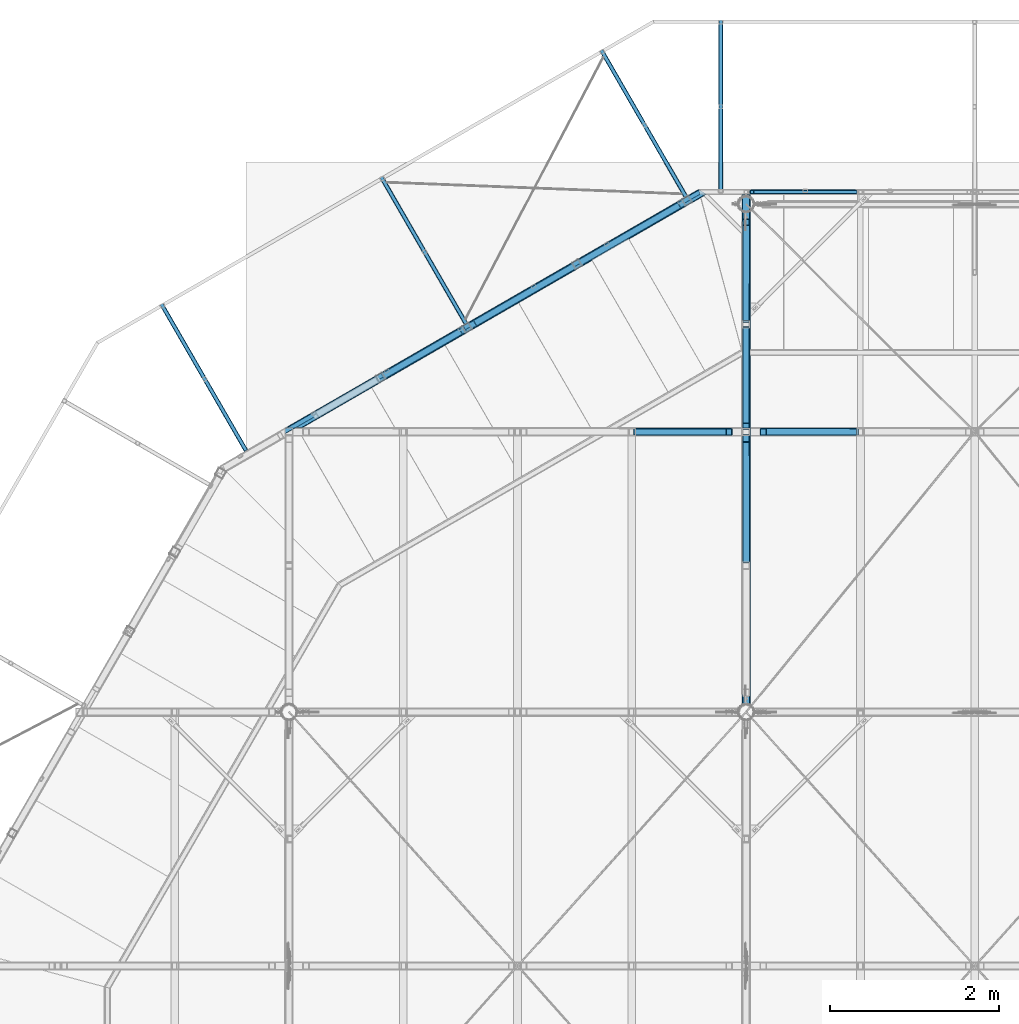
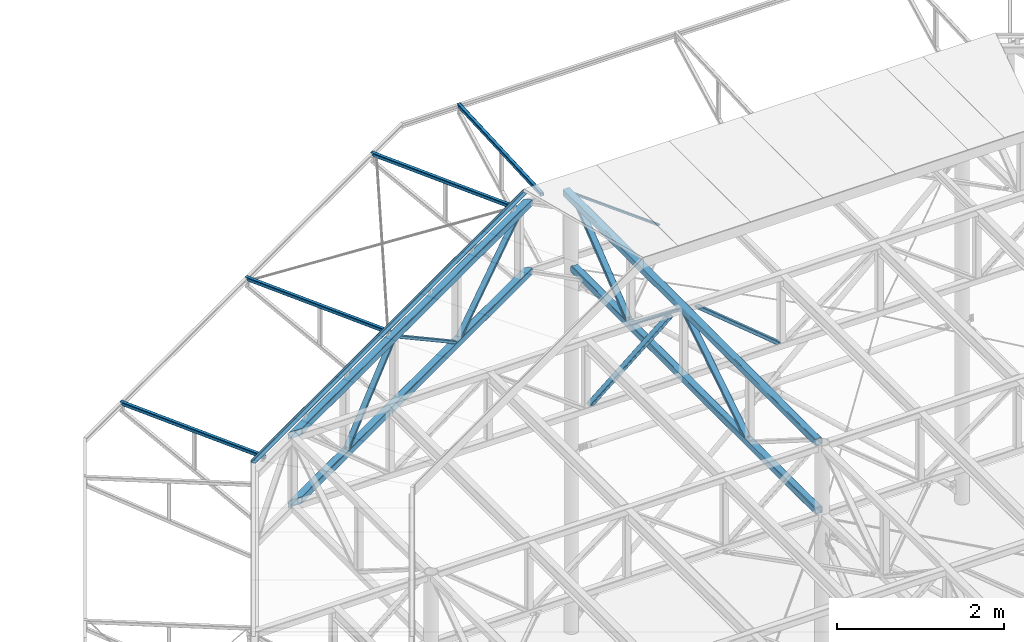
# One storey, part 55 of 132: 18 discrete accessories, 8 elements without a shape of their own.
"""IFC2X3 building model written with IfcOpenShell, lengths in millimetres."""

import ifcopenshell
import ifcopenshell.guid

model = None  # the IFC model being written
_history = None  # IfcOwnerHistory: only IFC2X3 demands one
_inside = {}  # id of a spatial element -> (the spatial element, [elements in it])
_under = {}  # id of a project, library or spatial element -> (it, [spatial elements below it])
_declared = {}  # id of a project -> (the project, [libraries it declares])
_typed = {}  # id of a type object -> (the type object, [elements of that type])
_made_of = {}  # id of a material, layer set ... -> (it, [elements and type objects made of it])


def new_model(schema):
    """Start an empty IFC model of exactly this schema.

    Asked for "IFC4X3", IfcOpenShell would pick the latest addendum, in which some entities
    have other attributes; the version numbers below select the first issue.
    IFC2X3 requires an IfcOwnerHistory on every rooted entity: one is made here for all.
    """
    global model, _history
    if schema == "IFC4X3":
        model = ifcopenshell.file(schema_version=(4, 3, 0, 0))
    else:
        model = ifcopenshell.file(schema=schema)
    _inside.clear()
    _under.clear()
    _declared.clear()
    _typed.clear()
    _made_of.clear()
    _history = None
    if model.schema == "IFC2X3":
        org = make("IfcOrganization", Name="unknown")
        user = make(
            "IfcPersonAndOrganization",
            ThePerson=make("IfcPerson", FamilyName="unknown"),
            TheOrganization=org,
        )
        app = make(
            "IfcApplication",
            ApplicationDeveloper=org,
            Version="unknown",
            ApplicationFullName="unknown",
            ApplicationIdentifier="unknown",
        )
        _history = make(
            "IfcOwnerHistory",
            OwningUser=user,
            OwningApplication=app,
            ChangeAction="ADDED",
            CreationDate=0,
        )
    return model


def make(cls, **values):
    """One entity of the class cls with the attributes given. An attribute that is None is left unset."""
    return model.create_entity(
        cls, **{name: value for name, value in values.items() if value is not None}
    )


def rooted(cls, **values):
    """An entity with a GlobalId (a new one), such as an element, a storey or a relation."""
    return make(cls, GlobalId=ifcopenshell.guid.new(), OwnerHistory=_history, **values)


def si_unit(unit_type, name, prefix=None):
    """IfcSIUnit, for example si_unit("LENGTHUNIT", "METRE", prefix="MILLI")."""
    return make("IfcSIUnit", UnitType=unit_type, Prefix=prefix, Name=name)


def assignment(units):
    """IfcUnitAssignment: the units of a project."""
    return None if units is None else make("IfcUnitAssignment", Units=units)


def point(xyz):
    """IfcCartesianPoint."""
    return None if xyz is None else make("IfcCartesianPoint", Coordinates=xyz)


def direction(xyz):
    """IfcDirection."""
    return None if xyz is None else make("IfcDirection", DirectionRatios=xyz)


def frame(location, z_axis=None, x_axis=None):
    """IfcAxis2Placement3D, a coordinate frame: its origin and axes. An axis left out is left unset."""
    return make(
        "IfcAxis2Placement3D",
        Location=point(location),
        Axis=direction(z_axis),
        RefDirection=direction(x_axis),
    )


def frame_2d(location, x_axis=None):
    """IfcAxis2Placement2D, a coordinate frame in the plane: its origin and x axis."""
    return make(
        "IfcAxis2Placement2D", Location=point(location), RefDirection=direction(x_axis)
    )


def origin_with_axes():
    """The frame at (0, 0, 0) with the z axis (0, 0, 1) and the x axis (1, 0, 0) written out."""
    return frame((0.0, 0.0, 0.0), z_axis=(0.0, 0.0, 1.0), x_axis=(1.0, 0.0, 0.0))


def origin_2d_with_axis():
    """The frame at (0, 0) in the plane with the x axis (1, 0) written out."""
    return frame_2d((0.0, 0.0), x_axis=(1.0, 0.0))


def place(relative_to, where):
    """IfcLocalPlacement: puts the frame where relative to a parent placement (None: the world)."""
    return make(
        "IfcLocalPlacement", PlacementRelTo=relative_to, RelativePlacement=where
    )


def context(
    kind, dimensions, precision=None, world=None, true_north=None, identifier=None
):
    """IfcGeometricRepresentationContext, for example the 3D "Model" context."""
    return make(
        "IfcGeometricRepresentationContext",
        ContextIdentifier=identifier,
        ContextType=kind,
        CoordinateSpaceDimension=dimensions,
        Precision=precision,
        WorldCoordinateSystem=world,
        TrueNorth=true_north,
    )


def subcontext(parent, identifier, kind, view, scale=None):
    """IfcGeometricRepresentationSubContext, for example "Body" below "Model"."""
    return make(
        "IfcGeometricRepresentationSubContext",
        ContextIdentifier=identifier,
        ContextType=kind,
        ParentContext=parent,
        TargetScale=scale,
        TargetView=view,
    )


def project(units=None, contexts=None):
    """IfcProject with its units and contexts."""
    return rooted(
        "IfcProject",
        Name="project",
        RepresentationContexts=contexts,
        UnitsInContext=assignment(units),
    )


def spatial(cls, under=None, at=None, **own):
    """A site, building, storey or space (cls), placed at a placement, below another one or the project."""
    s = rooted(cls, ObjectPlacement=at, **own)
    if under is not None:
        _under.setdefault(under.id(), (under, []))[1].append(s)
    return s


def profile(cls, at=None, kind="AREA", **sizes):
    """A parametric profile (cls). Its sizes go by their IFC names, for example OverallWidth=200.0."""
    return make(cls, ProfileType=kind, Position=at, **sizes)


def hollow_rectangle(**sizes):
    """IfcRectangleHollowProfileDef."""
    return profile("IfcRectangleHollowProfileDef", **sizes)


def circle(**sizes):
    """IfcCircleProfileDef."""
    return profile("IfcCircleProfileDef", **sizes)


def l_section(**sizes):
    """IfcLShapeProfileDef."""
    return profile("IfcLShapeProfileDef", **sizes)


def extrude(swept, where, along, depth):
    """IfcExtrudedAreaSolid: the profile swept, set in the frame where, extruded along a direction by depth."""
    return make(
        "IfcExtrudedAreaSolid",
        SweptArea=swept,
        Position=where,
        ExtrudedDirection=direction(along),
        Depth=depth,
    )


def boolean(op, a, b):
    """IfcBooleanResult of two solids."""
    return make("IfcBooleanResult", Operator=op, FirstOperand=a, SecondOperand=b)


def clip(a, b, op="DIFFERENCE"):
    """IfcBooleanClippingResult: the solid a cut by the half space b."""
    return make(
        "IfcBooleanClippingResult", Operator=op, FirstOperand=a, SecondOperand=b
    )


def halfspace(plane, agree):
    """IfcHalfSpaceSolid: all space on one side of the plane z = 0 of the frame plane."""
    return make(
        "IfcHalfSpaceSolid",
        BaseSurface=make("IfcPlane", Position=plane),
        AgreementFlag=agree,
    )


def shape(context_of_items, identifier, shape_type, items):
    """IfcShapeRepresentation: the items that make up one representation, for example the "Body"."""
    return make(
        "IfcShapeRepresentation",
        ContextOfItems=context_of_items,
        RepresentationIdentifier=identifier,
        RepresentationType=shape_type,
        Items=items,
    )


def material(Name=None, Category=None):
    """IfcMaterial."""
    return make("IfcMaterial", Name=Name, Category=Category)


def made_of(thing, what):
    """Note that an element or type object is made of a material, layer set ...; save() writes the relation."""
    if what is not None:
        _made_of.setdefault(what.id(), (what, []))[1].append(thing)
    return thing


def type_object(cls, material=None, **own):
    """A type object (cls), such as IfcWallType, which elements share."""
    return made_of(rooted(cls, **own), material)


def element(
    cls,
    number,
    at=None,
    inside=None,
    cuts=None,
    type_object=None,
    material=None,
    context=None,
    identifier="Body",
    shape_type=None,
    held_by="IfcProductDefinitionShape",
    body=None,
    shapes=None,
    **own,
):
    """One element of the class cls, such as IfcWall. Its Tag is "e" and its number.

    at: its placement. inside: the storey or other place that contains it. cuts: it is an
    opening in that element (IfcRelVoidsElement). A single representation is given by context,
    identifier, shape_type and body (its items); several are given by shapes. held_by: the class
    of the entity that holds the representations. save() writes the other relations.
    """
    e = rooted(cls, Tag="e%d" % number, ObjectPlacement=at, **own)
    if body is not None:
        shapes = [shape(context, identifier, shape_type, body)]
    if shapes is not None:
        e.Representation = make(held_by, Representations=shapes)
    if inside is not None:
        _inside.setdefault(inside.id(), (inside, []))[1].append(e)
    if cuts is not None:
        rooted(
            "IfcRelVoidsElement", RelatingBuildingElement=cuts, RelatedOpeningElement=e
        )
    if type_object is not None:
        _typed.setdefault(type_object.id(), (type_object, []))[1].append(e)
    return made_of(e, material)


def aggregate(whole, parts):
    """IfcRelAggregates: a whole, such as a stair, and the parts it consists of."""
    return rooted("IfcRelAggregates", RelatingObject=whole, RelatedObjects=parts)


def save(model, path):
    """Write the relations noted so far, then the file.

    IfcRelAggregates (storeys below a building ...), IfcRelContainedInSpatialStructure (elements
    in a storey), IfcRelDefinesByType, IfcRelAssociatesMaterial and IfcRelDeclares: one each for
    every whole, place, type object, material and project.
    """
    for whole, parts in _under.values():
        aggregate(whole, parts)
    for where, things in _inside.values():
        rooted(
            "IfcRelContainedInSpatialStructure",
            RelatedElements=things,
            RelatingStructure=where,
        )
    for kind, things in _typed.values():
        rooted("IfcRelDefinesByType", RelatedObjects=things, RelatingType=kind)
    for what, things in _made_of.values():
        rooted("IfcRelAssociatesMaterial", RelatedObjects=things, RelatingMaterial=what)
    for by, libraries in _declared.values():
        rooted("IfcRelDeclares", RelatingContext=by, RelatedDefinitions=libraries)
    model.write(path)


model = new_model("IFC2X3")

# Units and contexts
model_context = context("Model", 3, precision=1e-05, world=origin_with_axes())
body_context = subcontext(model_context, "Body", "Model", "MODEL_VIEW")
ifc_project = project(units=[si_unit("LENGTHUNIT", "METRE", prefix="MILLI"), si_unit("AREAUNIT", "SQUARE_METRE"), si_unit("VOLUMEUNIT", "CUBIC_METRE"), si_unit("MASSUNIT", "GRAM", prefix="KILO"), si_unit("TIMEUNIT", "SECOND"), si_unit("PLANEANGLEUNIT", "RADIAN"), si_unit("SOLIDANGLEUNIT", "STERADIAN"), si_unit("THERMODYNAMICTEMPERATUREUNIT", "DEGREE_CELSIUS"), si_unit("LUMINOUSINTENSITYUNIT", "LUMEN")], contexts=[model_context])

# Site, building, storey
site_placement = place(None, origin_with_axes())
site = spatial("IfcSite", under=ifc_project, at=site_placement, Name="Budowa", CompositionType="ELEMENT")
building_placement = place(site_placement, origin_with_axes())
building = spatial("IfcBuilding", under=site, at=building_placement, Name="Undefined", CompositionType="ELEMENT")
storey_placement = place(building_placement, origin_with_axes())
storey = spatial("IfcBuildingStorey", under=building, at=storey_placement, Name="Undefined", CompositionType="ELEMENT", Elevation=0.0)

# Assembly, discrete accessory
assembly_1_placement = place(storey_placement, origin_with_axes())
assembly_1 = element("IfcElementAssembly", 1, at=assembly_1_placement, inside=storey, Name="Steel Assembly", AssemblyPlace="NOTDEFINED", PredefinedType="RIGID_FRAME")
ifc_material = material(Name="STEEL/S235")
discrete_accessory_type = type_object("IfcDiscreteAccessoryType", Name="BEAM")
discrete_accessory_1_placement = place(assembly_1_placement, frame((8878.11540454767, 24148.9858614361, 14004.0), z_axis=(0.499969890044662, -0.866042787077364, 0.0), x_axis=(-0.866042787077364, -0.499969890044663, 0.0)))
discrete_accessory_1 = element("IfcDiscreteAccessory", 2, at=discrete_accessory_1_placement, type_object=discrete_accessory_type, material=ifc_material, Name="BEAM", ObjectType="L60*40*6", context=body_context, shape_type="Clipping", body=[
    clip(clip(extrude(l_section(Depth=60.0, Width=40.0, Thickness=6.0, FilletRadius=6.0, EdgeRadius=3.0, at=origin_2d_with_axis()), frame((6569.33256140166, 0.0, 3.64671213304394e-13), z_axis=(-1.0, 0.0, 0.0), x_axis=(0.0, -1.0, 0.0)), (0.0, 0.0, 1.0), 6613.77), halfspace(frame((6508.81355969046, 0.0, 30.0000000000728), z_axis=(-0.965919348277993, 0.0, -0.258843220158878), x_axis=(0.0, -1.0, 0.0)), True)), halfspace(frame((16.0758336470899, 0.0, 30.0000000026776), z_axis=(-0.965930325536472, 0.0, 0.25880225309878), x_axis=(0.0, -1.0, 0.0)), False)),
])
aggregate(assembly_1, [discrete_accessory_1])

assembly_2_placement = place(storey_placement, origin_with_axes())
assembly_2 = element("IfcElementAssembly", 3, at=assembly_2_placement, inside=storey, Name="Steel Assembly", AssemblyPlace="NOTDEFINED", PredefinedType="RIGID_FRAME")
discrete_accessory_2_placement = place(assembly_2_placement, frame((3516.44865703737, 21089.7565331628, 13855.0311915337), z_axis=(-0.866042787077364, -0.499969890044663, 0.0), x_axis=(-0.499346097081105, 0.864962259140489, 0.0499376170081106)))
discrete_accessory_2 = element("IfcDiscreteAccessory", 4, at=discrete_accessory_2_placement, type_object=discrete_accessory_type, material=ifc_material, Name="BEAM", ObjectType="SHS50*4", context=body_context, shape_type="Clipping", body=[
    clip(clip(extrude(hollow_rectangle(XDim=50.0, YDim=50.0, WallThickness=4.0, InnerFilletRadius=4.0, OuterFilletRadius=8.0, at=origin_2d_with_axis()), frame((2047.80222226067, -1.81898940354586e-12, -1.00153404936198e-12), z_axis=(-1.0, 0.0, 0.0), x_axis=(0.0, -1.0, 0.0)), (0.0, 0.0, 1.0), 2120.54), halfspace(frame((2002.5989463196, -25.0000000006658, -7.85761585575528e-07), z_axis=(-0.689225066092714, -0.724547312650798, 2.88487317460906e-10), x_axis=(0.0, 0.0, -1.0)), True)), halfspace(frame((-1.23691279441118e-08, -25.0000000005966, 73.1665326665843), z_axis=(-0.998752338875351, -0.0499376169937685, 0.0), x_axis=(0.0, 0.0, -1.0)), False)),
])
aggregate(assembly_2, [discrete_accessory_2])

assembly_3_placement = place(storey_placement, origin_with_axes())
assembly_3 = element("IfcElementAssembly", 5, at=assembly_3_placement, inside=storey, Name="Steel Assembly", AssemblyPlace="NOTDEFINED", PredefinedType="RIGID_FRAME")
discrete_accessory_3_placement = place(assembly_3_placement, frame((8712.70537952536, 24089.5758734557, 13855.0311915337), z_axis=(-0.866042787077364, -0.499969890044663, 0.0), x_axis=(-0.499346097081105, 0.864962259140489, 0.0499376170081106)))
discrete_accessory_3 = element("IfcDiscreteAccessory", 6, at=discrete_accessory_3_placement, type_object=discrete_accessory_type, material=ifc_material, Name="BEAM", ObjectType="SHS50*4", context=body_context, shape_type="Clipping", body=[
    clip(clip(extrude(hollow_rectangle(XDim=50.0, YDim=50.0, WallThickness=4.0, InnerFilletRadius=4.0, OuterFilletRadius=8.0, at=origin_2d_with_axis()), frame((2047.80222226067, -1.81898940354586e-12, -1.00153404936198e-12), z_axis=(-1.0, 0.0, 0.0), x_axis=(0.0, -1.0, 0.0)), (0.0, 0.0, 1.0), 2120.54), halfspace(frame((2002.5989463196, -25.0000000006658, -7.85761585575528e-07), z_axis=(-0.689225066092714, -0.724547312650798, 2.88487317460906e-10), x_axis=(0.0, 0.0, -1.0)), True)), halfspace(frame((-1.23691279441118e-08, -25.0000000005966, 73.1665326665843), z_axis=(-0.998752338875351, -0.0499376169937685, 0.0), x_axis=(0.0, 0.0, -1.0)), False)),
])
aggregate(assembly_3, [discrete_accessory_3])

assembly_4_placement = place(storey_placement, origin_with_axes())
assembly_4 = element("IfcElementAssembly", 7, at=assembly_4_placement, inside=storey, Name="Steel Assembly", AssemblyPlace="NOTDEFINED", PredefinedType="RIGID_FRAME")
discrete_accessory_4_placement = place(assembly_4_placement, frame((6114.57701827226, 22589.6662032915, 13855.0311915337), z_axis=(-0.866042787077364, -0.499969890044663, 0.0), x_axis=(-0.499346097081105, 0.864962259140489, 0.0499376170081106)))
discrete_accessory_4 = element("IfcDiscreteAccessory", 8, at=discrete_accessory_4_placement, type_object=discrete_accessory_type, material=ifc_material, Name="BEAM", ObjectType="SHS50*4", context=body_context, shape_type="Clipping", body=[
    clip(clip(extrude(hollow_rectangle(XDim=50.0, YDim=50.0, WallThickness=4.0, InnerFilletRadius=4.0, OuterFilletRadius=8.0, at=origin_2d_with_axis()), frame((2047.80222226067, -1.81898940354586e-12, -1.00153404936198e-12), z_axis=(-1.0, 0.0, 0.0), x_axis=(0.0, -1.0, 0.0)), (0.0, 0.0, 1.0), 2120.54), halfspace(frame((2002.5989463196, -25.0000000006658, -7.85761585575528e-07), z_axis=(-0.689225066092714, -0.724547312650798, 2.88487317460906e-10), x_axis=(0.0, 0.0, -1.0)), True)), halfspace(frame((-1.23691279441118e-08, -25.0000000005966, 73.1665326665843), z_axis=(-0.998752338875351, -0.0499376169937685, 0.0), x_axis=(0.0, 0.0, -1.0)), False)),
])
aggregate(assembly_4, [discrete_accessory_4])

assembly_5_placement = place(storey_placement, origin_with_axes())
assembly_5 = element("IfcElementAssembly", 9, at=assembly_5_placement, inside=storey, Name="Steel Assembly", AssemblyPlace="NOTDEFINED", PredefinedType="RIGID_FRAME")
discrete_accessory_5_placement = place(assembly_5_placement, frame((9124.99999998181, 24176.1484404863, 13855.0311915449), z_axis=(1.0, 0.0, 0.0), x_axis=(0.0, 0.998752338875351, 0.0499376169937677)))
discrete_accessory_5 = element("IfcDiscreteAccessory", 10, at=discrete_accessory_5_placement, type_object=discrete_accessory_type, material=ifc_material, Name="BEAM", ObjectType="SHS50*4", context=body_context, shape_type="Clipping", body=[
    clip(clip(extrude(hollow_rectangle(XDim=50.0, YDim=50.0, WallThickness=4.0, InnerFilletRadius=4.0, OuterFilletRadius=8.0, at=origin_2d_with_axis()), frame((2004.12425861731, -3.63797880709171e-12, 0.0), z_axis=(-1.0, 0.0, 0.0), x_axis=(0.0, -1.0, 0.0)), (0.0, 0.0, 1.0), 2033.18), halfspace(frame((2002.59894631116, 25.0000000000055, -2.91038304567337e-11), z_axis=(-0.689225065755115, 0.724547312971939, 0.0), x_axis=(0.0, 0.0, 1.0)), True)), halfspace(frame((-1.21290213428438e-08, 25.0000000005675, 73.1665326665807), z_axis=(-0.998752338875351, 0.0499376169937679, 0.0), x_axis=(-0.0499376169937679, -0.998752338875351, 0.0)), False)),
])
aggregate(assembly_5, [discrete_accessory_5])

# Assembly, discrete accessories
assembly_6_placement = place(storey_placement, origin_with_axes())
assembly_6 = element("IfcElementAssembly", 11, at=assembly_6_placement, inside=storey, Name="Steel Assembly", AssemblyPlace="NOTDEFINED", PredefinedType="RIGID_FRAME")
discrete_accessory_6_placement = place(assembly_6_placement, frame((6129.80718196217, 22539.2832223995, 13830.0000000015), z_axis=(-0.499969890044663, 0.866042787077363, 0.0), x_axis=(-0.660231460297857, -0.381154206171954, -0.647159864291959)))
solid_1 = boolean("DIFFERENCE", boolean("DIFFERENCE", extrude(hollow_rectangle(XDim=90.0, YDim=90.0, WallThickness=4.0, InnerFilletRadius=4.0, OuterFilletRadius=8.0, at=origin_2d_with_axis()), frame((32.3579932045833, -38.117716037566, 1.45102752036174e-08), z_axis=(0.64715986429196, -0.762354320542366, 2.65512611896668e-10), x_axis=(0.762354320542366, 0.64715986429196, 3.12771697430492e-10)), (0.0, 0.0, 1.0), 900.0), halfspace(frame((32.3579927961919, -38.1177160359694, 1000.00000001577), z_axis=(0.64715986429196, -0.762354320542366, 2.65512611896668e-10), x_axis=(0.0, 0.0, -1.0)), True)), halfspace(frame((614.801870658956, -724.236604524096, 1000.00000025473), z_axis=(-0.64715986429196, 0.762354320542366, -2.655122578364e-10), x_axis=(0.0, 0.0, -1.0)), True))
solid_2 = boolean("DIFFERENCE", boolean("DIFFERENCE", extrude(hollow_rectangle(XDim=90.0, YDim=90.0, WallThickness=4.0, InnerFilletRadius=4.0, OuterFilletRadius=8.0, at=origin_2d_with_axis()), frame((930.411382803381, 724.236604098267, 3.85323998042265e-07), z_axis=(0.64715986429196, -0.762354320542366, 2.65512611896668e-10), x_axis=(0.762354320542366, 0.64715986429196, 3.12771697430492e-10)), (0.0, 0.0, 1.0), 900.0), halfspace(frame((930.411382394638, 724.236604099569, 1000.00000038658), z_axis=(0.64715986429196, -0.762354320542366, 2.65512611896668e-10), x_axis=(0.0, 0.0, -1.0)), True)), halfspace(frame((1512.8552602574, 38.1177156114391, 1000.00000062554), z_axis=(-0.64715986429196, 0.762354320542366, -2.655122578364e-10), x_axis=(0.0, 0.0, -1.0)), True))
discrete_accessory_6 = element("IfcDiscreteAccessory", 12, at=discrete_accessory_6_placement, type_object=discrete_accessory_type, material=ifc_material, Name="BEAM", ObjectType="RHS80*40*4", context=body_context, shape_type="CSG", body=[
    boolean("DIFFERENCE", boolean("DIFFERENCE", boolean("DIFFERENCE", boolean("DIFFERENCE", extrude(hollow_rectangle(XDim=40.0, YDim=80.0, WallThickness=4.0, InnerFilletRadius=4.0, OuterFilletRadius=8.0, at=origin_2d_with_axis()), frame((1542.70146532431, -8.56371343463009e-14, -4.63483066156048e-14), z_axis=(-1.0, 0.0, 0.0), x_axis=(0.0, -1.0, 0.0)), (0.0, 0.0, 1.0), 1540.19), solid_1), solid_2), halfspace(frame((1512.8552602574, 38.1177156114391, 1000.00000062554), z_axis=(-0.64715986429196, 0.762354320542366, -2.655122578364e-10), x_axis=(-0.762354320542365, -0.647159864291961, -3.12771589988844e-10)), True)), halfspace(frame((32.3579927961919, -38.1177160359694, 1000.00000001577), z_axis=(0.64715986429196, -0.762354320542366, 2.65512611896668e-10), x_axis=(0.762354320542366, 0.64715986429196, 3.12771697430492e-10)), True)),
])
discrete_accessory_7_placement = place(assembly_6_placement, frame((6129.91671829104, 22539.3464581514, 13830.0000000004), z_axis=(-0.499969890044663, 0.866042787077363, 0.0), x_axis=(0.720591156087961, 0.41600009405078, -0.554700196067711)))
solid_3 = boolean("DIFFERENCE", boolean("DIFFERENCE", extrude(hollow_rectangle(XDim=90.0, YDim=90.0, WallThickness=4.0, InnerFilletRadius=4.0, OuterFilletRadius=8.0, at=origin_2d_with_axis()), frame((1275.70521449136, -790.377621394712, 2.53191315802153e-07), z_axis=(0.554700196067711, 0.832050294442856, -1.11090858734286e-10), x_axis=(-0.832050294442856, 0.554700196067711, 1.66634595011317e-10)), (0.0, 0.0, 1.0), 900.0), halfspace(frame((1275.70521428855, -790.377621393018, 1000.00000025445), z_axis=(0.554700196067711, 0.832050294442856, -1.11090858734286e-10), x_axis=(0.0, 0.0, -1.0)), True)), halfspace(frame((1774.93539074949, -41.5323563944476, 1000.00000035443), z_axis=(-0.554700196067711, -0.832050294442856, 1.11091980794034e-10), x_axis=(0.0, 0.0, -1.0)), True))
solid_4 = boolean("DIFFERENCE", boolean("DIFFERENCE", extrude(hollow_rectangle(XDim=90.0, YDim=90.0, WallThickness=4.0, InnerFilletRadius=4.0, OuterFilletRadius=8.0, at=origin_2d_with_axis()), frame((27.6297728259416, 41.6726727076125, 6.2698707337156e-09), z_axis=(0.554700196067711, 0.832050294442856, -1.11090858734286e-10), x_axis=(-0.832050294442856, 0.554700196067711, 1.66634595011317e-10)), (0.0, 0.0, 1.0), 900.0), halfspace(frame((27.6297726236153, 41.6726727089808, 1000.00000000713), z_axis=(0.554700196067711, 0.832050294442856, -1.11090858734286e-10), x_axis=(0.0, 0.0, -1.0)), True)), halfspace(frame((526.859949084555, 790.517937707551, 1000.00000010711), z_axis=(-0.554700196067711, -0.832050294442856, 1.11091980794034e-10), x_axis=(0.0, 0.0, -1.0)), True))
discrete_accessory_7 = element("IfcDiscreteAccessory", 13, at=discrete_accessory_7_placement, type_object=discrete_accessory_type, material=ifc_material, Name="BEAM", ObjectType="RHS80*40*4", context=body_context, shape_type="CSG", body=[
    boolean("DIFFERENCE", boolean("DIFFERENCE", boolean("DIFFERENCE", boolean("DIFFERENCE", extrude(hollow_rectangle(XDim=40.0, YDim=80.0, WallThickness=4.0, InnerFilletRadius=4.0, OuterFilletRadius=8.0, at=origin_2d_with_axis()), frame((1821.2793628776, 0.0, -8.6431479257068e-13), z_axis=(-1.0, 0.0, 0.0), x_axis=(0.0, -1.0, 0.0)), (0.0, 0.0, 1.0), 1839.78), solid_3), solid_4), halfspace(frame((1775.04062811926, -41.6025143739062, 999.999999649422), z_axis=(-0.554700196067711, -0.832050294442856, 1.11091980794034e-10), x_axis=(0.832050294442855, -0.554700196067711, -1.66634436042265e-10)), True)), halfspace(frame((27.7350099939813, 41.6025147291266, 999.999999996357), z_axis=(0.554700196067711, 0.832050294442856, -1.11090858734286e-10), x_axis=(-0.832050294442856, 0.554700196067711, 1.66634595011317e-10)), True)),
])
discrete_accessory_8_placement = place(assembly_6_placement, frame((8727.93554319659, 24039.1928925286, 13830.0000000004), z_axis=(-0.499969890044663, 0.866042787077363, 0.0), x_axis=(-0.720591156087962, -0.41600009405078, -0.554700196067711)))
solid_5 = boolean("DIFFERENCE", boolean("DIFFERENCE", extrude(hollow_rectangle(XDim=90.0, YDim=90.0, WallThickness=4.0, InnerFilletRadius=4.0, OuterFilletRadius=8.0, at=origin_2d_with_axis()), frame((27.7350097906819, -41.6025147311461, -4.89933715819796e-09), z_axis=(0.554700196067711, -0.832050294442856, 1.11090858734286e-10), x_axis=(0.832050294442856, 0.554700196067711, 1.66635594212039e-10)), (0.0, 0.0, 1.0), 900.0), halfspace(frame((27.7350096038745, -41.6025147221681, 1000.00000000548), z_axis=(0.554700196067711, -0.832050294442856, 1.11090858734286e-10), x_axis=(0.0, 0.0, -1.0)), True)), halfspace(frame((526.965186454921, -790.4477797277, 999.999999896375), z_axis=(-0.554700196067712, 0.832050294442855, -1.1109021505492e-10), x_axis=(0.0, 0.0, -1.0)), True))
solid_6 = boolean("DIFFERENCE", boolean("DIFFERENCE", extrude(hollow_rectangle(XDim=90.0, YDim=90.0, WallThickness=4.0, InnerFilletRadius=4.0, OuterFilletRadius=8.0, at=origin_2d_with_axis()), frame((1275.81045145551, 790.447779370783, -2.51850795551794e-07), z_axis=(0.554700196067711, -0.832050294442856, 1.11090858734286e-10), x_axis=(0.832050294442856, 0.554700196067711, 1.66635594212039e-10)), (0.0, 0.0, 1.0), 900.0), halfspace(frame((1275.81045165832, 790.447779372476, 999.999999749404), z_axis=(0.554700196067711, -0.832050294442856, 1.11090858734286e-10), x_axis=(0.0, 0.0, -1.0)), True)), halfspace(frame((1775.04062824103, 41.6025147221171, 999.999999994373), z_axis=(-0.554700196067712, 0.832050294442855, -1.1109021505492e-10), x_axis=(0.0, 0.0, -1.0)), True))
discrete_accessory_8 = element("IfcDiscreteAccessory", 14, at=discrete_accessory_8_placement, type_object=discrete_accessory_type, material=ifc_material, Name="BEAM", ObjectType="RHS80*40*4", context=body_context, shape_type="CSG", body=[
    boolean("DIFFERENCE", boolean("DIFFERENCE", boolean("DIFFERENCE", boolean("DIFFERENCE", extrude(hollow_rectangle(XDim=40.0, YDim=80.0, WallThickness=4.0, InnerFilletRadius=4.0, OuterFilletRadius=8.0, at=origin_2d_with_axis()), frame((1821.2793628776, 0.0, -8.6431479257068e-13), z_axis=(-1.0, 0.0, 0.0), x_axis=(0.0, -1.0, 0.0)), (0.0, 0.0, 1.0), 1839.78), solid_5), solid_6), halfspace(frame((1775.04062824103, 41.6025147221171, 999.999999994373), z_axis=(-0.554700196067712, 0.832050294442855, -1.1109021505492e-10), x_axis=(-0.832050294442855, -0.554700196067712, -1.66634890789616e-10)), True)), halfspace(frame((27.7350096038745, -41.6025147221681, 1000.00000000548), z_axis=(0.554700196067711, -0.832050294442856, 1.11090858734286e-10), x_axis=(0.832050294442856, 0.554700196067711, 1.66635594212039e-10)), True)),
])
discrete_accessory_9_placement = place(assembly_6_placement, frame((8887.99849449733, 24131.597860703, 12830.0), z_axis=(0.0, 0.0, 1.0), x_axis=(-0.866042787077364, -0.499969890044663, 0.0)))
discrete_accessory_9 = element("IfcDiscreteAccessory", 15, at=discrete_accessory_9_placement, type_object=discrete_accessory_type, material=ifc_material, Name="BEAM", ObjectType="SHS100*5", context=body_context, shape_type="Clipping", body=[
    clip(clip(extrude(hollow_rectangle(XDim=100.0, YDim=100.0, WallThickness=5.0, InnerFilletRadius=5.0, OuterFilletRadius=10.0, at=origin_2d_with_axis()), frame((5640.58238679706, 0.0, 1.81898940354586e-12), z_axis=(-1.0, 0.0, 0.0), x_axis=(0.0, -1.0, 0.0)), (0.0, 0.0, 1.0), 5811.83), halfspace(frame((5456.92005784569, 50.0, -49.9999999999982), z_axis=(0.499969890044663, 0.866042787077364, 0.0), x_axis=(0.866042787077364, -0.499969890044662, 0.0)), False)), halfspace(frame((-53.2117618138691, 50.0000000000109, 1.81898940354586e-12), z_axis=(-0.882798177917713, -0.46975246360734, 0.0), x_axis=(0.0, 0.0, 1.0)), False)),
])
discrete_accessory_10_placement = place(assembly_6_placement, frame((8887.99849449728, 24131.597860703, 13830.0), z_axis=(0.0, 0.0, 1.0), x_axis=(-0.866042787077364, -0.499969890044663, 0.0)))
discrete_accessory_10 = element("IfcDiscreteAccessory", 16, at=discrete_accessory_10_placement, type_object=discrete_accessory_type, material=ifc_material, Name="BEAM", ObjectType="SHS100*5", context=body_context, shape_type="Clipping", body=[
    clip(clip(extrude(hollow_rectangle(XDim=100.0, YDim=100.0, WallThickness=5.0, InnerFilletRadius=5.0, OuterFilletRadius=10.0, at=origin_2d_with_axis()), frame((5640.58238679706, 0.0, 1.81898940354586e-12), z_axis=(-1.0, 0.0, 0.0), x_axis=(0.0, -1.0, 0.0)), (0.0, 0.0, 1.0), 5811.83), halfspace(frame((5456.92005784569, 50.0, -49.9999999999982), z_axis=(0.499969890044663, 0.866042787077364, 0.0), x_axis=(0.866042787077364, -0.499969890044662, 0.0)), False)), halfspace(frame((-53.2117618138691, 50.0000000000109, 1.81898940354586e-12), z_axis=(-0.882798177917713, -0.46975246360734, 0.0), x_axis=(0.0, 0.0, 1.0)), False)),
])
discrete_accessory_11_placement = place(assembly_6_placement, frame((9424.99999994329, 24144.9000000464, 13830.0000000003), z_axis=(0.0, -1.0, 0.0), x_axis=(0.803557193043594, 0.0, -0.595227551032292)))
discrete_accessory_11 = element("IfcDiscreteAccessory", 17, at=discrete_accessory_11_placement, type_object=discrete_accessory_type, material=ifc_material, Name="BEAM", ObjectType="RHS50*30*5", context=body_context, shape_type="Clipping", body=[
    clip(clip(extrude(hollow_rectangle(XDim=30.0, YDim=50.0, WallThickness=5.0, InnerFilletRadius=5.0, OuterFilletRadius=10.0, at=origin_2d_with_axis()), frame((1636.93327242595, -3.63797880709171e-12, 3.63797880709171e-12), z_axis=(-1.0, 0.0, 0.0), x_axis=(0.0, -1.0, 0.0)), (0.0, 0.0, 1.0), 1593.84), halfspace(frame((1650.2683829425, 40.1778596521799, 1000.0), z_axis=(-0.595227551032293, 0.803557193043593, 0.0), x_axis=(-0.803557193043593, -0.595227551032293, 0.0)), True)), halfspace(frame((29.7613775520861, -40.1778596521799, 1000.0), z_axis=(0.595227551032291, -0.803557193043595, 0.0), x_axis=(0.803557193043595, 0.595227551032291, 0.0)), True)),
])

# Assembly, discrete accessory
assembly_7_placement = place(storey_placement, origin_with_axes())
assembly_7 = element("IfcElementAssembly", 18, at=assembly_7_placement, inside=storey, Name="Steel Assembly", AssemblyPlace="NOTDEFINED", PredefinedType="RIGID_FRAME")
discrete_accessory_12_placement = place(assembly_7_placement, frame((9283.99999993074, 21310.0000000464, 13830.0), z_axis=(0.0, -1.0, 0.0), x_axis=(-0.770567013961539, 0.0, -0.637358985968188)))
solid_7 = boolean("DIFFERENCE", boolean("DIFFERENCE", extrude(hollow_rectangle(XDim=90.0, YDim=90.0, WallThickness=6.0, InnerFilletRadius=6.0, OuterFilletRadius=12.0, at=origin_2d_with_axis()), frame((1537.1065565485, -38.5283507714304, -6.22094376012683e-10), z_axis=(-0.637358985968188, -0.770567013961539, 0.0), x_axis=(0.770567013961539, -0.637358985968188, 0.0)), (0.0, 0.0, 1.0), 900.0), halfspace(frame((1537.1065565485, -38.5283507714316, 999.999999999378), z_axis=(-0.637358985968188, -0.770567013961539, 0.0), x_axis=(0.770567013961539, -0.637358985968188, 0.0)), True)), halfspace(frame((963.483469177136, -732.038663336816, 999.999999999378), z_axis=(0.637358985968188, 0.770567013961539, 0.0), x_axis=(-0.770567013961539, 0.637358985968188, 0.0)), True))
discrete_accessory_12 = element("IfcDiscreteAccessory", 19, at=discrete_accessory_12_placement, type_object=discrete_accessory_type, material=ifc_material, Name="BEAM", ObjectType="RHS90*50*5", context=body_context, shape_type="CSG", body=[
    boolean("DIFFERENCE", boolean("DIFFERENCE", boolean("DIFFERENCE", extrude(hollow_rectangle(XDim=50.0, YDim=90.0, WallThickness=5.0, InnerFilletRadius=7.5, OuterFilletRadius=12.5, at=origin_2d_with_axis()), frame((1533.07734352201, 2.27373675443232e-12, 0.0), z_axis=(-1.0, 0.0, 0.0), x_axis=(0.0, -1.0, 0.0)), (0.0, 0.0, 1.0), 1497.18), solid_7), halfspace(frame((1537.1065565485, -38.5283507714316, 999.999999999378), z_axis=(-0.637358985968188, -0.770567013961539, 0.0), x_axis=(0.770567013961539, -0.637358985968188, 0.0)), True)), halfspace(frame((31.867949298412, 38.52835069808, 1000.0), z_axis=(0.637358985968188, 0.770567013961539, 0.0), x_axis=(-0.770567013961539, 0.637358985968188, 0.0)), True)),
])
aggregate(assembly_7, [discrete_accessory_12])

# Discrete accessory
discrete_accessory_13_placement = place(assembly_6_placement, frame((9424.99999994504, 23850.038635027, 13830.0000000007), z_axis=(1.0, 0.0, 0.0), x_axis=(0.0, -0.785673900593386, -0.618640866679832)))
solid_8 = boolean("DIFFERENCE", boolean("DIFFERENCE", extrude(hollow_rectangle(XDim=90.0, YDim=90.0, WallThickness=6.0, InnerFilletRadius=6.0, OuterFilletRadius=12.0, at=origin_2d_with_axis()), frame((1028.76825158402, -746.414106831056, -1.21326593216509e-09), z_axis=(0.618640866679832, 0.785673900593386, 0.0), x_axis=(0.785673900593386, -0.618640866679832, 0.0)), (0.0, 0.0, 1.0), 900.0), halfspace(frame((1028.76825158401, -746.414106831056, -1000.00000000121), z_axis=(0.618640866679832, 0.785673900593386, 0.0), x_axis=(0.0, 0.0, 1.0)), True)), halfspace(frame((1585.54503159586, -39.3075962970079, -1000.00000000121), z_axis=(-0.618640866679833, -0.785673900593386, 0.0), x_axis=(0.0, 0.0, 1.0)), True))
discrete_accessory_13 = element("IfcDiscreteAccessory", 20, at=discrete_accessory_13_placement, type_object=discrete_accessory_type, material=ifc_material, Name="BEAM", ObjectType="RHS90*50*5", context=body_context, shape_type="CSG", body=[
    boolean("DIFFERENCE", boolean("DIFFERENCE", boolean("DIFFERENCE", extrude(hollow_rectangle(XDim=50.0, YDim=90.0, WallThickness=5.0, InnerFilletRadius=7.5, OuterFilletRadius=12.5, at=origin_2d_with_axis()), frame((1582.4028592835, 8.21653697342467e-13, 0.0), z_axis=(-1.0, 0.0, 0.0), x_axis=(0.0, -1.0, 0.0)), (0.0, 0.0, 1.0), 1548.36), solid_8), halfspace(frame((1585.51467698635, -39.2836950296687, 1000.0), z_axis=(-0.618640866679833, -0.785673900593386, 0.0), x_axis=(0.785673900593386, -0.618640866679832, 0.0)), True)), halfspace(frame((30.9320433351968, 39.2836950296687, 1000.0), z_axis=(0.618640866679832, 0.785673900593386, 0.0), x_axis=(-0.785673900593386, 0.618640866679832, 0.0)), True)),
])

discrete_accessory_14_placement = place(assembly_6_placement, frame((9424.99999994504, 21310.0000000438, 13830.0000000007), z_axis=(1.0, 0.0, 0.0), x_axis=(0.0, 0.785673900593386, -0.618640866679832)))
solid_9 = boolean("DIFFERENCE", boolean("DIFFERENCE", extrude(hollow_rectangle(XDim=90.0, YDim=90.0, WallThickness=6.0, InnerFilletRadius=6.0, OuterFilletRadius=12.0, at=origin_2d_with_axis()), frame((30.932043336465, -39.283695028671, -1.21326593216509e-09), z_axis=(0.618640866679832, -0.785673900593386, 0.0), x_axis=(-0.785673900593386, -0.618640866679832, 0.0)), (0.0, 0.0, 1.0), 900.0), halfspace(frame((30.9320433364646, -39.2836950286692, -1000.00000000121), z_axis=(0.618640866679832, -0.785673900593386, 0.0), x_axis=(0.0, 0.0, 1.0)), True)), halfspace(frame((587.708823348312, -746.390205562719, -1000.00000000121), z_axis=(-0.618640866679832, 0.785673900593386, 0.0), x_axis=(0.0, 0.0, 1.0)), True))
solid_10 = boolean("DIFFERENCE", boolean("DIFFERENCE", extrude(hollow_rectangle(XDim=90.0, YDim=90.0, WallThickness=6.0, InnerFilletRadius=6.0, OuterFilletRadius=12.0, at=origin_2d_with_axis()), frame((1028.73789709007, 746.390205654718, -1.21326593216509e-09), z_axis=(0.618640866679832, -0.785673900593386, 0.0), x_axis=(-0.785673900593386, -0.618640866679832, 0.0)), (0.0, 0.0, 1.0), 900.0), halfspace(frame((1028.73789709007, 746.390205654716, -1000.00000000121), z_axis=(0.618640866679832, -0.785673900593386, 0.0), x_axis=(0.0, 0.0, 1.0)), True)), halfspace(frame((1585.51467710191, 39.28369512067, -1000.00000000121), z_axis=(-0.618640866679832, 0.785673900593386, 0.0), x_axis=(0.0, 0.0, 1.0)), True))
discrete_accessory_14 = element("IfcDiscreteAccessory", 21, at=discrete_accessory_14_placement, type_object=discrete_accessory_type, material=ifc_material, Name="BEAM", ObjectType="RHS90*50*5", context=body_context, shape_type="CSG", body=[
    boolean("DIFFERENCE", boolean("DIFFERENCE", boolean("DIFFERENCE", boolean("DIFFERENCE", extrude(hollow_rectangle(XDim=50.0, YDim=90.0, WallThickness=5.0, InnerFilletRadius=7.5, OuterFilletRadius=12.5, at=origin_2d_with_axis()), frame((1564.98501807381, 8.68741200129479e-14, 0.0), z_axis=(-1.0, 0.0, 0.0), x_axis=(0.0, -1.0, 0.0)), (0.0, 0.0, 1.0), 1513.52), solid_9), solid_10), halfspace(frame((1585.51467698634, 39.2836950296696, 1000.0), z_axis=(-0.618640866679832, 0.785673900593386, 0.0), x_axis=(-0.785673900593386, -0.618640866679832, 0.0)), True)), halfspace(frame((30.9320433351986, -39.2836950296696, 1000.0), z_axis=(0.618640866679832, -0.785673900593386, 0.0), x_axis=(0.785673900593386, 0.618640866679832, 0.0)), True)),
])

discrete_accessory_15_placement = place(assembly_6_placement, frame((9424.99999994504, 21310.0000000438, 13830.0000000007), z_axis=(1.0, 0.0, 0.0), x_axis=(0.0, -0.845133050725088, -0.534556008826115)))
solid_11 = boolean("DIFFERENCE", boolean("DIFFERENCE", extrude(hollow_rectangle(XDim=90.0, YDim=90.0, WallThickness=6.0, InnerFilletRadius=6.0, OuterFilletRadius=12.0, at=origin_2d_with_axis()), frame((26.727800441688, 42.2566525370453, -4.56930138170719e-09), z_axis=(0.534556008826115, 0.845133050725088, 0.0), x_axis=(0.845133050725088, -0.534556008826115, 0.0)), (0.0, 0.0, 1.0), 900.0), halfspace(frame((26.7278004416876, 42.2566525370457, -1000.00000000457), z_axis=(0.534556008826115, 0.845133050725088, 0.0), x_axis=(0.0, 0.0, 1.0)), True)), halfspace(frame((507.828208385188, 802.876398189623, -1000.00000000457), z_axis=(-0.534556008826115, -0.845133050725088, 0.0), x_axis=(0.0, 0.0, 1.0)), True))
solid_12 = boolean("DIFFERENCE", boolean("DIFFERENCE", extrude(hollow_rectangle(XDim=90.0, YDim=90.0, WallThickness=6.0, InnerFilletRadius=6.0, OuterFilletRadius=12.0, at=origin_2d_with_axis()), frame((1362.88315363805, -802.876397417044, -4.56930138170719e-09), z_axis=(0.534556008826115, 0.845133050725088, 0.0), x_axis=(0.845133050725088, -0.534556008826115, 0.0)), (0.0, 0.0, 1.0), 900.0), halfspace(frame((1362.88315363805, -802.876397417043, -1000.00000000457), z_axis=(0.534556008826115, 0.845133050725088, 0.0), x_axis=(0.0, 0.0, 1.0)), True)), halfspace(frame((1843.98356158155, -42.2566517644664, -1000.00000000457), z_axis=(-0.534556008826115, -0.845133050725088, 0.0), x_axis=(0.0, 0.0, 1.0)), True))
discrete_accessory_15 = element("IfcDiscreteAccessory", 22, at=discrete_accessory_15_placement, type_object=discrete_accessory_type, material=ifc_material, Name="BEAM", ObjectType="RHS90*50*5", context=body_context, shape_type="CSG", body=[
    boolean("DIFFERENCE", boolean("DIFFERENCE", boolean("DIFFERENCE", boolean("DIFFERENCE", extrude(hollow_rectangle(XDim=50.0, YDim=90.0, WallThickness=5.0, InnerFilletRadius=7.5, OuterFilletRadius=12.5, at=origin_2d_with_axis()), frame((1835.3048903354, 0.0, 0.0), z_axis=(-1.0, 0.0, 0.0), x_axis=(0.0, -1.0, 0.0)), (0.0, 0.0, 1.0), 1799.9), solid_11), solid_12), halfspace(frame((1843.98356280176, -42.2566525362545, 1000.0), z_axis=(-0.534556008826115, -0.845133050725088, 0.0), x_axis=(0.845133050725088, -0.534556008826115, 0.0)), True)), halfspace(frame((26.7278004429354, 42.2566525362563, 1000.0), z_axis=(0.534556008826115, 0.845133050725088, 0.0), x_axis=(-0.845133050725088, 0.534556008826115, 0.0)), True)),
])

discrete_accessory_16_placement = place(assembly_6_placement, frame((9424.99999994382, 23911.1000000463, 12830.0), z_axis=(1.0, 0.0, 0.0), x_axis=(0.0, -1.0, 0.0)))
discrete_accessory_16 = element("IfcDiscreteAccessory", 23, at=discrete_accessory_16_placement, type_object=discrete_accessory_type, material=ifc_material, Name="BEAM", ObjectType="SHS100*8", context=body_context, shape_type="CSG", body=[
    boolean("DIFFERENCE", boolean("DIFFERENCE", boolean("DIFFERENCE", boolean("DIFFERENCE", extrude(hollow_rectangle(XDim=100.0, YDim=100.0, WallThickness=8.0, InnerFilletRadius=8.0, OuterFilletRadius=16.0, at=origin_2d_with_axis()), frame((5911.09999999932, 0.0, 0.0), z_axis=(-1.0, 0.0, 0.0), x_axis=(0.0, -1.0, 0.0)), (0.0, 0.0, 1.0), 6000.0), extrude(circle(Radius=89.9, at=origin_2d_with_axis()), frame((-88.9000001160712, -1950.0, -7.27595761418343e-12), z_axis=(0.0, 1.0, 0.0), x_axis=(1.0, 0.0, 0.0)), (0.0, 0.0, 1.0), 2100.0)), extrude(circle(Radius=89.9, at=origin_2d_with_axis()), frame((5911.09999999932, -1950.0, -7.27595761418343e-12), z_axis=(0.0, 1.0, 0.0), x_axis=(1.0, 0.0, 0.0)), (0.0, 0.0, 1.0), 2100.0)), halfspace(frame((5911.09999999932, 5339.0, -7.27595761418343e-12), z_axis=(-1.0, 0.0, 0.0), x_axis=(0.0, 0.0, 1.0)), True)), halfspace(frame((-88.9000001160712, 5339.0, -7.27595761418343e-12), z_axis=(-1.0, 0.0, 0.0), x_axis=(0.0, 0.0, 1.0)), False)),
])

discrete_accessory_17_placement = place(assembly_6_placement, frame((9424.99999994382, 24114.9000000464, 13830.0), z_axis=(1.0, 0.0, 0.0), x_axis=(0.0, -1.0, 0.0)))
discrete_accessory_17 = element("IfcDiscreteAccessory", 24, at=discrete_accessory_17_placement, type_object=discrete_accessory_type, material=ifc_material, Name="BEAM", ObjectType="SHS100*8", context=body_context, shape_type="CSG", body=[
    boolean("DIFFERENCE", boolean("DIFFERENCE", extrude(hollow_rectangle(XDim=100.0, YDim=100.0, WallThickness=8.0, InnerFilletRadius=8.0, OuterFilletRadius=16.0, at=origin_2d_with_axis()), frame((6114.89999999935, 0.0, 0.0), z_axis=(-1.0, 0.0, 0.0), x_axis=(0.0, -1.0, 0.0)), (0.0, 0.0, 1.0), 6114.9), extrude(circle(Radius=89.9, at=origin_2d_with_axis()), frame((6114.89999999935, -1950.0, -7.27595761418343e-12), z_axis=(0.0, 1.0, 0.0), x_axis=(1.0, 0.0, 0.0)), (0.0, 0.0, 1.0), 2100.0)), halfspace(frame((6114.89999999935, 6339.0, -7.27595761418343e-12), z_axis=(-1.0, 0.0, 0.0), x_axis=(0.0, 0.0, 1.0)), True)),
])

aggregate(assembly_6, [discrete_accessory_6, discrete_accessory_7, discrete_accessory_8, discrete_accessory_9, discrete_accessory_10, discrete_accessory_11, discrete_accessory_13, discrete_accessory_14, discrete_accessory_15, discrete_accessory_16, discrete_accessory_17])

# Assembly, discrete accessory
assembly_8_placement = place(storey_placement, origin_with_axes())
assembly_8 = element("IfcElementAssembly", 25, at=assembly_8_placement, inside=storey, Name="Steel Assembly", AssemblyPlace="NOTDEFINED", PredefinedType="RIGID_FRAME")
discrete_accessory_18_placement = place(assembly_8_placement, frame((9565.99999995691, 21310.0000000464, 13830.0), z_axis=(0.0, -1.0, 0.0), x_axis=(0.770567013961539, 0.0, -0.637358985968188)))
solid_13 = boolean("DIFFERENCE", boolean("DIFFERENCE", extrude(hollow_rectangle(XDim=90.0, YDim=90.0, WallThickness=6.0, InnerFilletRadius=6.0, OuterFilletRadius=12.0, at=origin_2d_with_axis()), frame((1537.1065565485, 38.528350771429, -6.22094376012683e-10), z_axis=(-0.637358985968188, 0.770567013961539, 0.0), x_axis=(-0.770567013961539, -0.637358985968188, 0.0)), (0.0, 0.0, 1.0), 900.0), halfspace(frame((1537.1065565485, 38.5283507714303, 999.999999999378), z_axis=(-0.637358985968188, 0.770567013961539, 0.0), x_axis=(-0.770567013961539, -0.637358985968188, 0.0)), True)), halfspace(frame((963.483469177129, 732.038663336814, 999.999999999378), z_axis=(0.637358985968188, -0.770567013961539, 0.0), x_axis=(0.770567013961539, 0.637358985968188, 0.0)), True))
discrete_accessory_18 = element("IfcDiscreteAccessory", 26, at=discrete_accessory_18_placement, type_object=discrete_accessory_type, material=ifc_material, Name="BEAM", ObjectType="RHS90*50*5", context=body_context, shape_type="CSG", body=[
    boolean("DIFFERENCE", boolean("DIFFERENCE", boolean("DIFFERENCE", extrude(hollow_rectangle(XDim=50.0, YDim=90.0, WallThickness=5.0, InnerFilletRadius=7.5, OuterFilletRadius=12.5, at=origin_2d_with_axis()), frame((1533.07734352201, 2.27373675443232e-12, 0.0), z_axis=(-1.0, 0.0, 0.0), x_axis=(0.0, -1.0, 0.0)), (0.0, 0.0, 1.0), 1497.18), solid_13), halfspace(frame((1537.1065565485, 38.5283507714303, 999.999999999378), z_axis=(-0.637358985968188, 0.770567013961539, 0.0), x_axis=(-0.770567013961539, -0.637358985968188, 0.0)), True)), halfspace(frame((31.867949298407, -38.5283506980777, 1000.0), z_axis=(0.637358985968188, -0.770567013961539, 0.0), x_axis=(0.770567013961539, 0.637358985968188, 0.0)), True)),
])
aggregate(assembly_8, [discrete_accessory_18])

save(model, "model.ifc")
